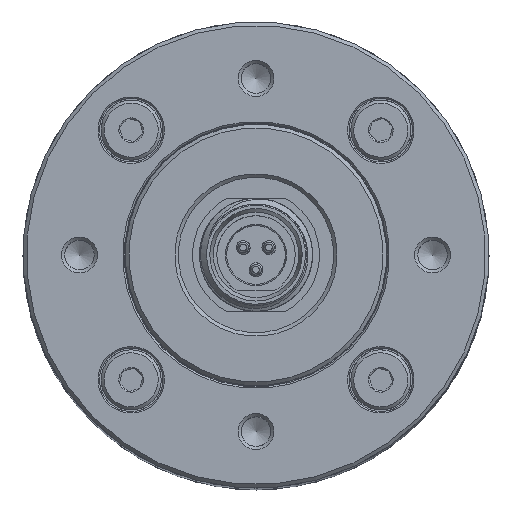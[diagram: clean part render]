
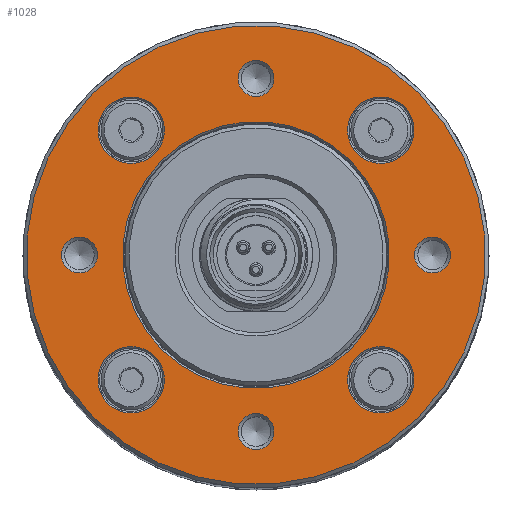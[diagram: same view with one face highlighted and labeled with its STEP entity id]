
A CAD part, top view. The second image highlights one B-rep face of the part: STEP entity #1028.
In plain terms, the highlighted planar face has unit normal (0, 0, 1).
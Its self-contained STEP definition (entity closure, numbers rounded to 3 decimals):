
#130 = DIRECTION ( 'NONE',  ( 0.707, -0.707, 0. ) ) ;
#168 = CIRCLE ( 'NONE', #5924, 4.7 ) ;
#226 = DIRECTION ( 'NONE',  ( 0., 0., 1. ) ) ;
#248 = EDGE_CURVE ( 'NONE', #543, #543, #6311, .T. ) ;
#258 = EDGE_CURVE ( 'NONE', #6786, #6786, #3690, .T. ) ;
#378 = EDGE_CURVE ( 'NONE', #5857, #5857, #2197, .T. ) ;
#480 = CARTESIAN_POINT ( 'NONE',  ( 22.981, -22.981, 158. ) ) ;
#543 = VERTEX_POINT ( 'NONE', #7448 ) ;
#599 = DIRECTION ( 'NONE',  ( 0., 0., 1. ) ) ;
#646 = DIRECTION ( 'NONE',  ( 0.707, -0.707, 0. ) ) ;
#663 = FACE_BOUND ( 'NONE', #3919, .T. ) ;
#705 = FACE_BOUND ( 'NONE', #9926, .T. ) ;
#924 = CARTESIAN_POINT ( 'NONE',  ( 0., 0., 158. ) ) ;
#941 = CARTESIAN_POINT ( 'NONE',  ( 0., 0., 158. ) ) ;
#1028 = ADVANCED_FACE ( 'NONE', ( #705, #7006, #3024, #2362, #6168, #1433, #3072, #9345, #663, #5510 ), #8637, .F. ) ;
#1085 = CIRCLE ( 'NONE', #1252, 4.7 ) ;
#1246 = AXIS2_PLACEMENT_3D ( 'NONE', #941, #4086, #8000 ) ;
#1252 = AXIS2_PLACEMENT_3D ( 'NONE', #9262, #3818, #9413 ) ;
#1276 = AXIS2_PLACEMENT_3D ( 'NONE', #924, #4738, #5621 ) ;
#1433 = FACE_BOUND ( 'NONE', #3048, .T. ) ;
#1548 = CARTESIAN_POINT ( 'NONE',  ( -25., 0., 158. ) ) ;
#1665 = VERTEX_POINT ( 'NONE', #9674 ) ;
#1885 = AXIS2_PLACEMENT_3D ( 'NONE', #5492, #599, #7657 ) ;
#1986 = AXIS2_PLACEMENT_3D ( 'NONE', #1548, #10127, #7067 ) ;
#2081 = ORIENTED_EDGE ( 'NONE', *, *, #248, .F. ) ;
#2145 = AXIS2_PLACEMENT_3D ( 'NONE', #6323, #6906, #2310 ) ;
#2197 = CIRCLE ( 'NONE', #4344, 2.55 ) ;
#2203 = EDGE_LOOP ( 'NONE', ( #6339 ) ) ;
#2276 = EDGE_CURVE ( 'NONE', #2397, #2397, #2756, .T. ) ;
#2310 = DIRECTION ( 'NONE',  ( -0.707, 0.707, 0. ) ) ;
#2344 = DIRECTION ( 'NONE',  ( 0.707, -0.707, 0. ) ) ;
#2362 = FACE_BOUND ( 'NONE', #4329, .T. ) ;
#2397 = VERTEX_POINT ( 'NONE', #6197 ) ;
#2453 = CARTESIAN_POINT ( 'NONE',  ( 0., 25., 158. ) ) ;
#2738 = EDGE_LOOP ( 'NONE', ( #7003 ) ) ;
#2756 = CIRCLE ( 'NONE', #1276, 18.9 ) ;
#2889 = ORIENTED_EDGE ( 'NONE', *, *, #6217, .F. ) ;
#2937 = EDGE_LOOP ( 'NONE', ( #2081 ) ) ;
#3001 = VERTEX_POINT ( 'NONE', #9230 ) ;
#3024 = FACE_BOUND ( 'NONE', #5930, .T. ) ;
#3040 = EDGE_CURVE ( 'NONE', #3001, #3001, #168, .T. ) ;
#3048 = EDGE_LOOP ( 'NONE', ( #7189 ) ) ;
#3059 = DIRECTION ( 'NONE',  ( 0., 0., 1. ) ) ;
#3072 = FACE_OUTER_BOUND ( 'NONE', #5109, .T. ) ;
#3620 = CIRCLE ( 'NONE', #1986, 2.55 ) ;
#3641 = CARTESIAN_POINT ( 'NONE',  ( 17.678, -17.678, 158. ) ) ;
#3690 = CIRCLE ( 'NONE', #1885, 4.7 ) ;
#3693 = CARTESIAN_POINT ( 'NONE',  ( 21.001, 14.354, 158. ) ) ;
#3712 = CIRCLE ( 'NONE', #1246, 32.5 ) ;
#3764 = EDGE_LOOP ( 'NONE', ( #5655 ) ) ;
#3818 = DIRECTION ( 'NONE',  ( 0., 0., 1. ) ) ;
#3919 = EDGE_LOOP ( 'NONE', ( #9304 ) ) ;
#4086 = DIRECTION ( 'NONE',  ( 0., 0., 1. ) ) ;
#4188 = CARTESIAN_POINT ( 'NONE',  ( -23.197, -1.803, 158. ) ) ;
#4329 = EDGE_LOOP ( 'NONE', ( #8940 ) ) ;
#4344 = AXIS2_PLACEMENT_3D ( 'NONE', #7144, #226, #7191 ) ;
#4365 = CARTESIAN_POINT ( 'NONE',  ( 26.803, -1.803, 158. ) ) ;
#4738 = DIRECTION ( 'NONE',  ( 0., 0., 1. ) ) ;
#4756 = AXIS2_PLACEMENT_3D ( 'NONE', #2453, #9393, #4821 ) ;
#4821 = DIRECTION ( 'NONE',  ( 0.707, -0.707, 0. ) ) ;
#5109 = EDGE_LOOP ( 'NONE', ( #5862 ) ) ;
#5492 = CARTESIAN_POINT ( 'NONE',  ( 17.678, 17.678, 158. ) ) ;
#5510 = FACE_BOUND ( 'NONE', #3764, .T. ) ;
#5621 = DIRECTION ( 'NONE',  ( 0.707, -0.707, 0. ) ) ;
#5655 = ORIENTED_EDGE ( 'NONE', *, *, #378, .F. ) ;
#5857 = VERTEX_POINT ( 'NONE', #4365 ) ;
#5862 = ORIENTED_EDGE ( 'NONE', *, *, #5923, .T. ) ;
#5923 = EDGE_CURVE ( 'NONE', #9073, #9073, #3712, .T. ) ;
#5924 = AXIS2_PLACEMENT_3D ( 'NONE', #3641, #9903, #646 ) ;
#5930 = EDGE_LOOP ( 'NONE', ( #2889 ) ) ;
#5996 = CARTESIAN_POINT ( 'NONE',  ( -14.354, -21.001, 158. ) ) ;
#6168 = FACE_BOUND ( 'NONE', #2738, .T. ) ;
#6197 = CARTESIAN_POINT ( 'NONE',  ( 13.364, -13.364, 158. ) ) ;
#6217 = EDGE_CURVE ( 'NONE', #9786, #9786, #1085, .T. ) ;
#6288 = CARTESIAN_POINT ( 'NONE',  ( 1.803, -26.803, 158. ) ) ;
#6311 = CIRCLE ( 'NONE', #8609, 4.7 ) ;
#6323 = CARTESIAN_POINT ( 'NONE',  ( 13.364, 13.364, 158. ) ) ;
#6339 = ORIENTED_EDGE ( 'NONE', *, *, #9353, .F. ) ;
#6443 = VERTEX_POINT ( 'NONE', #4188 ) ;
#6786 = VERTEX_POINT ( 'NONE', #3693 ) ;
#6906 = DIRECTION ( 'NONE',  ( 0., 0., -1. ) ) ;
#7003 = ORIENTED_EDGE ( 'NONE', *, *, #258, .F. ) ;
#7006 = FACE_BOUND ( 'NONE', #2937, .T. ) ;
#7067 = DIRECTION ( 'NONE',  ( 0.707, -0.707, 0. ) ) ;
#7144 = CARTESIAN_POINT ( 'NONE',  ( 25., 0., 158. ) ) ;
#7189 = ORIENTED_EDGE ( 'NONE', *, *, #2276, .F. ) ;
#7191 = DIRECTION ( 'NONE',  ( 0.707, -0.707, 0. ) ) ;
#7196 = CARTESIAN_POINT ( 'NONE',  ( 0., -25., 158. ) ) ;
#7448 = CARTESIAN_POINT ( 'NONE',  ( -14.354, 14.354, 158. ) ) ;
#7657 = DIRECTION ( 'NONE',  ( 0.707, -0.707, 0. ) ) ;
#7742 = EDGE_CURVE ( 'NONE', #9220, #9220, #9514, .T. ) ;
#8000 = DIRECTION ( 'NONE',  ( 0.707, -0.707, 0. ) ) ;
#8473 = CARTESIAN_POINT ( 'NONE',  ( -17.678, 17.678, 158. ) ) ;
#8609 = AXIS2_PLACEMENT_3D ( 'NONE', #8473, #3059, #2344 ) ;
#8637 = PLANE ( 'NONE',  #2145 ) ;
#8720 = CIRCLE ( 'NONE', #4756, 2.55 ) ;
#8725 = EDGE_CURVE ( 'NONE', #6443, #6443, #3620, .T. ) ;
#8940 = ORIENTED_EDGE ( 'NONE', *, *, #3040, .F. ) ;
#9073 = VERTEX_POINT ( 'NONE', #480 ) ;
#9220 = VERTEX_POINT ( 'NONE', #6288 ) ;
#9230 = CARTESIAN_POINT ( 'NONE',  ( 21.001, -21.001, 158. ) ) ;
#9262 = CARTESIAN_POINT ( 'NONE',  ( -17.678, -17.678, 158. ) ) ;
#9304 = ORIENTED_EDGE ( 'NONE', *, *, #8725, .F. ) ;
#9345 = FACE_BOUND ( 'NONE', #2203, .T. ) ;
#9353 = EDGE_CURVE ( 'NONE', #1665, #1665, #8720, .T. ) ;
#9393 = DIRECTION ( 'NONE',  ( 0., 0., 1. ) ) ;
#9413 = DIRECTION ( 'NONE',  ( 0.707, -0.707, 0. ) ) ;
#9447 = DIRECTION ( 'NONE',  ( 0., 0., 1. ) ) ;
#9514 = CIRCLE ( 'NONE', #9679, 2.55 ) ;
#9674 = CARTESIAN_POINT ( 'NONE',  ( 1.803, 23.197, 158. ) ) ;
#9679 = AXIS2_PLACEMENT_3D ( 'NONE', #7196, #9447, #130 ) ;
#9786 = VERTEX_POINT ( 'NONE', #5996 ) ;
#9899 = ORIENTED_EDGE ( 'NONE', *, *, #7742, .F. ) ;
#9903 = DIRECTION ( 'NONE',  ( 0., 0., 1. ) ) ;
#9926 = EDGE_LOOP ( 'NONE', ( #9899 ) ) ;
#10127 = DIRECTION ( 'NONE',  ( 0., 0., 1. ) ) ;
